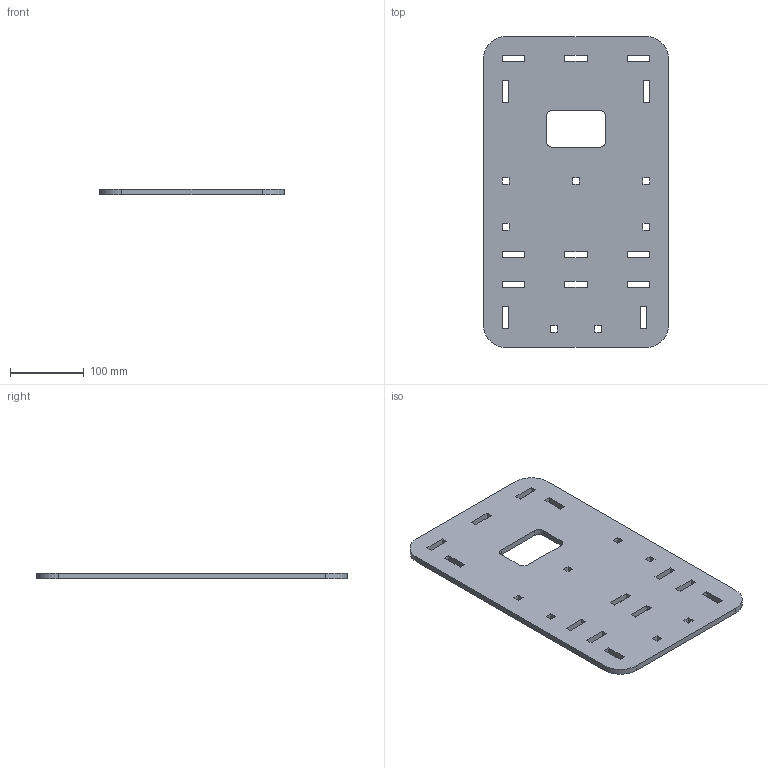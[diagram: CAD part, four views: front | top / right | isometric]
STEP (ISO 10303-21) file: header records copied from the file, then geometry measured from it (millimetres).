
FILE_DESCRIPTION(/* description */ (''),/* implementation_level */ '2;1');
FILE_NAME(/* name */ 'Holder_part_1_ver_2.step',/* time_stamp */ '2026-07-24T14:32:10+02:00',/* author */ ('dariu'),/* organization */ (''),/* preprocessor_version */ 'ST-DEVELOPER v20.1',/* originating_system */ 'Autodesk Inventor 2026',/* authorisation */ '');
FILE_SCHEMA (('AUTOMOTIVE_DESIGN { 1 0 10303 214 3 1 1 }'));
Length unit declared in the file: millimetre
Products named in the file (1): Holder_part_1_ver_1
Bounding box: 250 x 420 x 8 mm (x, y, z)
Volume: 772139 mm3; surface area: 215274.4 mm2
Topology: 1 solids, 1 shells, 98 faces, 288 edges, 192 vertices
Faces by surface type: plane 90, cylinder 8
Entity records: 3335 total; most frequent: CARTESIAN_POINT 579, ORIENTED_EDGE 576, DIRECTION 502, EDGE_CURVE 288, LINE 272, VECTOR 272, VERTEX_POINT 192, EDGE_LOOP 140
